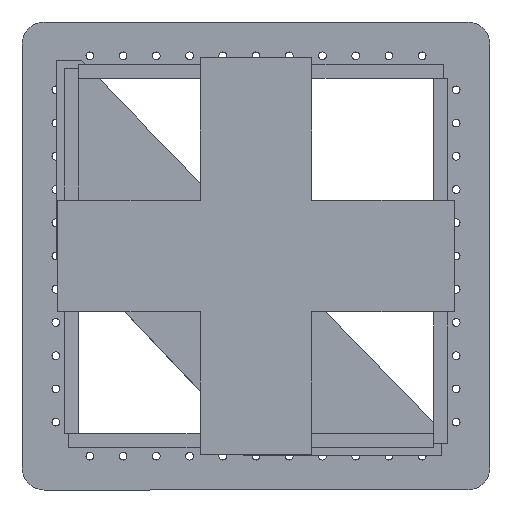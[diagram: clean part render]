
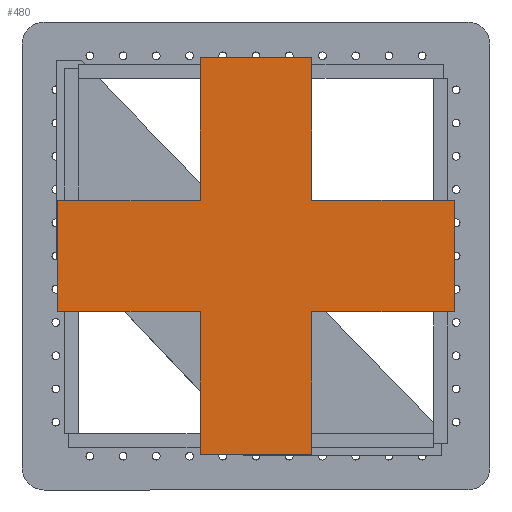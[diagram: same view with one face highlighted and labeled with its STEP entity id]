
A CAD part, front view. The second image highlights one B-rep face of the part: STEP entity #480.
In plain terms, the highlighted planar face has unit normal (0, -1, 0).
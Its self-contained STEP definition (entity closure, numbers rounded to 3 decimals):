
#480=ADVANCED_FACE('',(#676),#602,.F.);
#602=PLANE('',#2535);
#676=FACE_OUTER_BOUND('',#752,.T.);
#752=EDGE_LOOP('',(#1118,#1119,#1120,#1121,#1122,#1123,#1124,#1125,#1126,
#1127,#1128,#1129));
#1118=ORIENTED_EDGE('',*,*,#1907,.F.);
#1119=ORIENTED_EDGE('',*,*,#1885,.F.);
#1120=ORIENTED_EDGE('',*,*,#1872,.F.);
#1121=ORIENTED_EDGE('',*,*,#1906,.F.);
#1122=ORIENTED_EDGE('',*,*,#1864,.F.);
#1123=ORIENTED_EDGE('',*,*,#1830,.F.);
#1124=ORIENTED_EDGE('',*,*,#1905,.F.);
#1125=ORIENTED_EDGE('',*,*,#1822,.F.);
#1126=ORIENTED_EDGE('',*,*,#1852,.F.);
#1127=ORIENTED_EDGE('',*,*,#1909,.F.);
#1128=ORIENTED_EDGE('',*,*,#1844,.F.);
#1129=ORIENTED_EDGE('',*,*,#1893,.F.);
#1594=VERTEX_POINT('',#3413);
#1595=VERTEX_POINT('',#3415);
#1602=VERTEX_POINT('',#3430);
#1603=VERTEX_POINT('',#3432);
#1614=VERTEX_POINT('',#3458);
#1615=VERTEX_POINT('',#3460);
#1622=VERTEX_POINT('',#3475);
#1631=VERTEX_POINT('',#3499);
#1638=VERTEX_POINT('',#3514);
#1639=VERTEX_POINT('',#3516);
#1649=VERTEX_POINT('',#3541);
#1656=VERTEX_POINT('',#3556);
#1822=EDGE_CURVE('',#1594,#1595,#2120,.T.);
#1830=EDGE_CURVE('',#1602,#1603,#2128,.T.);
#1844=EDGE_CURVE('',#1614,#1615,#2142,.T.);
#1852=EDGE_CURVE('',#1622,#1594,#2150,.T.);
#1864=EDGE_CURVE('',#1603,#1631,#2162,.T.);
#1872=EDGE_CURVE('',#1638,#1639,#2170,.T.);
#1885=EDGE_CURVE('',#1639,#1649,#2183,.T.);
#1893=EDGE_CURVE('',#1656,#1614,#2191,.T.);
#1905=EDGE_CURVE('',#1595,#1602,#2203,.T.);
#1906=EDGE_CURVE('',#1631,#1638,#2204,.T.);
#1907=EDGE_CURVE('',#1649,#1656,#2205,.T.);
#1909=EDGE_CURVE('',#1615,#1622,#2207,.T.);
#2120=LINE('',#3414,#2322);
#2128=LINE('',#3431,#2330);
#2142=LINE('',#3459,#2344);
#2150=LINE('',#3476,#2352);
#2162=LINE('',#3498,#2364);
#2170=LINE('',#3515,#2372);
#2183=LINE('',#3540,#2385);
#2191=LINE('',#3557,#2393);
#2203=LINE('',#3574,#2405);
#2204=LINE('',#3576,#2406);
#2205=LINE('',#3578,#2407);
#2207=LINE('',#3581,#2409);
#2322=VECTOR('',#2752,1.);
#2330=VECTOR('',#2762,1.);
#2344=VECTOR('',#2780,1.);
#2352=VECTOR('',#2790,1.);
#2364=VECTOR('',#2806,1.);
#2372=VECTOR('',#2816,1.);
#2385=VECTOR('',#2833,1.);
#2393=VECTOR('',#2843,1.);
#2405=VECTOR('',#2863,1.);
#2406=VECTOR('',#2866,1.);
#2407=VECTOR('',#2869,1.);
#2409=VECTOR('',#2873,1.);
#2535=AXIS2_PLACEMENT_3D('',#3583,#2876,#2877);
#2752=DIRECTION('',(-1.,0.,0.));
#2762=DIRECTION('',(1.,0.,0.));
#2780=DIRECTION('',(0.,0.,-1.));
#2790=DIRECTION('',(0.,0.,1.));
#2806=DIRECTION('',(0.,0.,1.));
#2816=DIRECTION('',(0.,0.,-1.));
#2833=DIRECTION('',(1.,0.,0.));
#2843=DIRECTION('',(-1.,0.,0.));
#2863=DIRECTION('',(0.,0.,1.));
#2866=DIRECTION('',(1.,0.,0.));
#2869=DIRECTION('',(0.,0.,-1.));
#2873=DIRECTION('',(-1.,0.,0.));
#2876=DIRECTION('',(0.,1.,0.));
#2877=DIRECTION('',(0.,0.,1.));
#3413=CARTESIAN_POINT('',(81.35,-46.45,81.35));
#3414=CARTESIAN_POINT('',(81.35,-46.45,81.35));
#3415=CARTESIAN_POINT('',(17.125,-46.45,81.35));
#3430=CARTESIAN_POINT('',(17.125,-46.45,131.35));
#3431=CARTESIAN_POINT('',(17.125,-46.45,131.35));
#3432=CARTESIAN_POINT('',(81.35,-46.45,131.35));
#3458=CARTESIAN_POINT('',(131.35,-46.45,81.35));
#3459=CARTESIAN_POINT('',(131.35,-46.45,81.35));
#3460=CARTESIAN_POINT('',(131.35,-46.45,17.125));
#3475=CARTESIAN_POINT('',(81.35,-46.45,17.125));
#3476=CARTESIAN_POINT('',(81.35,-46.45,17.125));
#3498=CARTESIAN_POINT('',(81.35,-46.45,131.35));
#3499=CARTESIAN_POINT('',(81.35,-46.45,195.575));
#3514=CARTESIAN_POINT('',(131.35,-46.45,195.575));
#3515=CARTESIAN_POINT('',(131.35,-46.45,195.575));
#3516=CARTESIAN_POINT('',(131.35,-46.45,131.35));
#3540=CARTESIAN_POINT('',(131.35,-46.45,131.35));
#3541=CARTESIAN_POINT('',(195.575,-46.45,131.35));
#3556=CARTESIAN_POINT('',(195.575,-46.45,81.35));
#3557=CARTESIAN_POINT('',(195.575,-46.45,81.35));
#3574=CARTESIAN_POINT('',(17.125,-46.45,81.35));
#3576=CARTESIAN_POINT('',(81.35,-46.45,195.575));
#3578=CARTESIAN_POINT('',(195.575,-46.45,131.35));
#3581=CARTESIAN_POINT('',(131.35,-46.45,17.125));
#3583=CARTESIAN_POINT('',(17.125,-46.45,81.35));
